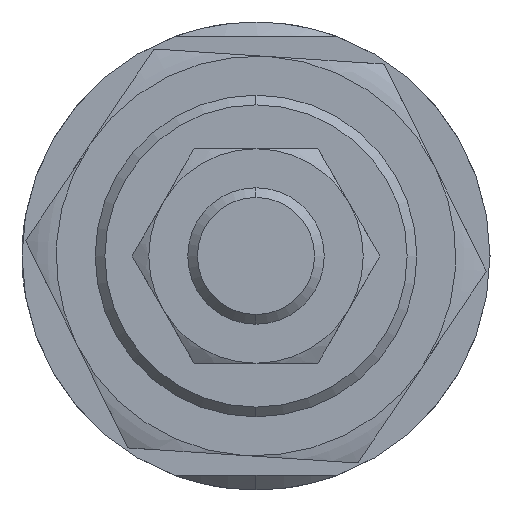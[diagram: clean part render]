
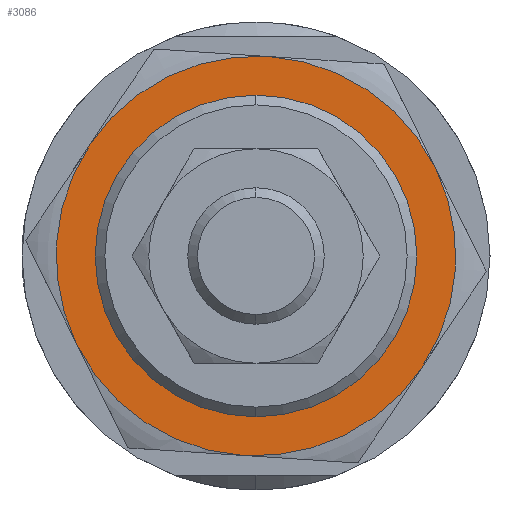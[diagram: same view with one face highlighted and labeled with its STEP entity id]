
A CAD part, left-side view. The second image highlights one B-rep face of the part: STEP entity #3086.
In plain terms, the highlighted planar face has unit normal (-1, 0, 0) as drawn and (0, 0, -1) by its records, which use the part's own axes.
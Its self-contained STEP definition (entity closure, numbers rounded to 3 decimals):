
#30 = EDGE_LOOP ( 'NONE', ( #3201, #353, #796, #2856, #1366, #1768 ) ) ;
#56 = CIRCLE ( 'NONE', #1755, 15.5 ) ;
#91 = CARTESIAN_POINT ( 'NONE',  ( 10.25, 17.754, -5.5 ) ) ;
#129 = EDGE_CURVE ( 'NONE', #299, #2771, #56, .T. ) ;
#178 = CIRCLE ( 'NONE', #3242, 20.5 ) ;
#224 = CARTESIAN_POINT ( 'NONE',  ( 0., 0., -5.5 ) ) ;
#228 = EDGE_CURVE ( 'NONE', #1361, #1157, #2062, .T. ) ;
#299 = VERTEX_POINT ( 'NONE', #2044 ) ;
#353 = ORIENTED_EDGE ( 'NONE', *, *, #2886, .F. ) ;
#514 = CARTESIAN_POINT ( 'NONE',  ( 0., 0., -5.5 ) ) ;
#542 = DIRECTION ( 'NONE',  ( 1., 0., 0. ) ) ;
#633 = EDGE_LOOP ( 'NONE', ( #1119, #1815 ) ) ;
#750 = CARTESIAN_POINT ( 'NONE',  ( 0., 0., -5.5 ) ) ;
#796 = ORIENTED_EDGE ( 'NONE', *, *, #1785, .F. ) ;
#806 = CARTESIAN_POINT ( 'NONE',  ( 0., 0., -5.5 ) ) ;
#843 = DIRECTION ( 'NONE',  ( 1., 0., 0. ) ) ;
#867 = CARTESIAN_POINT ( 'NONE',  ( 0., 0., -5.5 ) ) ;
#878 = CARTESIAN_POINT ( 'NONE',  ( 0., 0., -5.5 ) ) ;
#919 = DIRECTION ( 'NONE',  ( 1., 0., 0. ) ) ;
#988 = PLANE ( 'NONE',  #2057 ) ;
#1015 = FACE_OUTER_BOUND ( 'NONE', #30, .T. ) ;
#1119 = ORIENTED_EDGE ( 'NONE', *, *, #2403, .T. ) ;
#1157 = VERTEX_POINT ( 'NONE', #2411 ) ;
#1260 = VERTEX_POINT ( 'NONE', #2204 ) ;
#1299 = AXIS2_PLACEMENT_3D ( 'NONE', #1324, #1860, #1871 ) ;
#1323 = VERTEX_POINT ( 'NONE', #91 ) ;
#1324 = CARTESIAN_POINT ( 'NONE',  ( 0., 0., -5.5 ) ) ;
#1353 = DIRECTION ( 'NONE',  ( 0., 0., 1. ) ) ;
#1361 = VERTEX_POINT ( 'NONE', #1795 ) ;
#1366 = ORIENTED_EDGE ( 'NONE', *, *, #2261, .F. ) ;
#1657 = CARTESIAN_POINT ( 'NONE',  ( 10.25, -17.754, -5.5 ) ) ;
#1712 = CIRCLE ( 'NONE', #1299, 20.5 ) ;
#1755 = AXIS2_PLACEMENT_3D ( 'NONE', #2965, #1928, #919 ) ;
#1761 = AXIS2_PLACEMENT_3D ( 'NONE', #806, #1864, #542 ) ;
#1768 = ORIENTED_EDGE ( 'NONE', *, *, #2783, .F. ) ;
#1785 = EDGE_CURVE ( 'NONE', #1157, #3235, #2408, .T. ) ;
#1795 = CARTESIAN_POINT ( 'NONE',  ( -20.5, 0., -5.5 ) ) ;
#1807 = DIRECTION ( 'NONE',  ( 1., 0., 0. ) ) ;
#1815 = ORIENTED_EDGE ( 'NONE', *, *, #129, .T. ) ;
#1825 = AXIS2_PLACEMENT_3D ( 'NONE', #2934, #3185, #1916 ) ;
#1860 = DIRECTION ( 'NONE',  ( 0., 0., 1. ) ) ;
#1864 = DIRECTION ( 'NONE',  ( 0., 0., 1. ) ) ;
#1871 = DIRECTION ( 'NONE',  ( 1., 0., 0. ) ) ;
#1908 = DIRECTION ( 'NONE',  ( 0., 0., 1. ) ) ;
#1916 = DIRECTION ( 'NONE',  ( 1., 0., 0. ) ) ;
#1928 = DIRECTION ( 'NONE',  ( 0., 0., 1. ) ) ;
#1978 = AXIS2_PLACEMENT_3D ( 'NONE', #750, #2025, #3317 ) ;
#2025 = DIRECTION ( 'NONE',  ( 0., 0., 1. ) ) ;
#2044 = CARTESIAN_POINT ( 'NONE',  ( -15.5, 0., -5.5 ) ) ;
#2057 = AXIS2_PLACEMENT_3D ( 'NONE', #224, #2784, #1807 ) ;
#2062 = CIRCLE ( 'NONE', #1825, 20.5 ) ;
#2119 = CIRCLE ( 'NONE', #1761, 20.5 ) ;
#2204 = CARTESIAN_POINT ( 'NONE',  ( 20.5, 0., -5.5 ) ) ;
#2261 = EDGE_CURVE ( 'NONE', #2958, #1361, #2119, .T. ) ;
#2286 = DIRECTION ( 'NONE',  ( 0., 0., 1. ) ) ;
#2403 = EDGE_CURVE ( 'NONE', #2771, #299, #2612, .T. ) ;
#2408 = CIRCLE ( 'NONE', #1978, 20.5 ) ;
#2411 = CARTESIAN_POINT ( 'NONE',  ( -10.25, -17.754, -5.5 ) ) ;
#2530 = CARTESIAN_POINT ( 'NONE',  ( -10.25, 17.754, -5.5 ) ) ;
#2612 = CIRCLE ( 'NONE', #2969, 15.5 ) ;
#2628 = AXIS2_PLACEMENT_3D ( 'NONE', #867, #1908, #3154 ) ;
#2752 = CIRCLE ( 'NONE', #2628, 20.5 ) ;
#2771 = VERTEX_POINT ( 'NONE', #3325 ) ;
#2783 = EDGE_CURVE ( 'NONE', #1323, #2958, #178, .T. ) ;
#2784 = DIRECTION ( 'NONE',  ( 0., 0., 1. ) ) ;
#2856 = ORIENTED_EDGE ( 'NONE', *, *, #228, .F. ) ;
#2886 = EDGE_CURVE ( 'NONE', #3235, #1260, #1712, .T. ) ;
#2923 = FACE_BOUND ( 'NONE', #633, .T. ) ;
#2934 = CARTESIAN_POINT ( 'NONE',  ( 0., 0., -5.5 ) ) ;
#2958 = VERTEX_POINT ( 'NONE', #2530 ) ;
#2965 = CARTESIAN_POINT ( 'NONE',  ( 0., 0., -5.5 ) ) ;
#2969 = AXIS2_PLACEMENT_3D ( 'NONE', #878, #1353, #843 ) ;
#3084 = DIRECTION ( 'NONE',  ( 1., 0., 0. ) ) ;
#3086 = ADVANCED_FACE ( 'NONE', ( #2923, #1015 ), #988, .F. ) ;
#3154 = DIRECTION ( 'NONE',  ( 1., 0., 0. ) ) ;
#3185 = DIRECTION ( 'NONE',  ( 0., 0., 1. ) ) ;
#3201 = ORIENTED_EDGE ( 'NONE', *, *, #3223, .F. ) ;
#3223 = EDGE_CURVE ( 'NONE', #1260, #1323, #2752, .T. ) ;
#3235 = VERTEX_POINT ( 'NONE', #1657 ) ;
#3242 = AXIS2_PLACEMENT_3D ( 'NONE', #514, #2286, #3084 ) ;
#3317 = DIRECTION ( 'NONE',  ( 1., 0., 0. ) ) ;
#3325 = CARTESIAN_POINT ( 'NONE',  ( 15.5, 0., -5.5 ) ) ;
